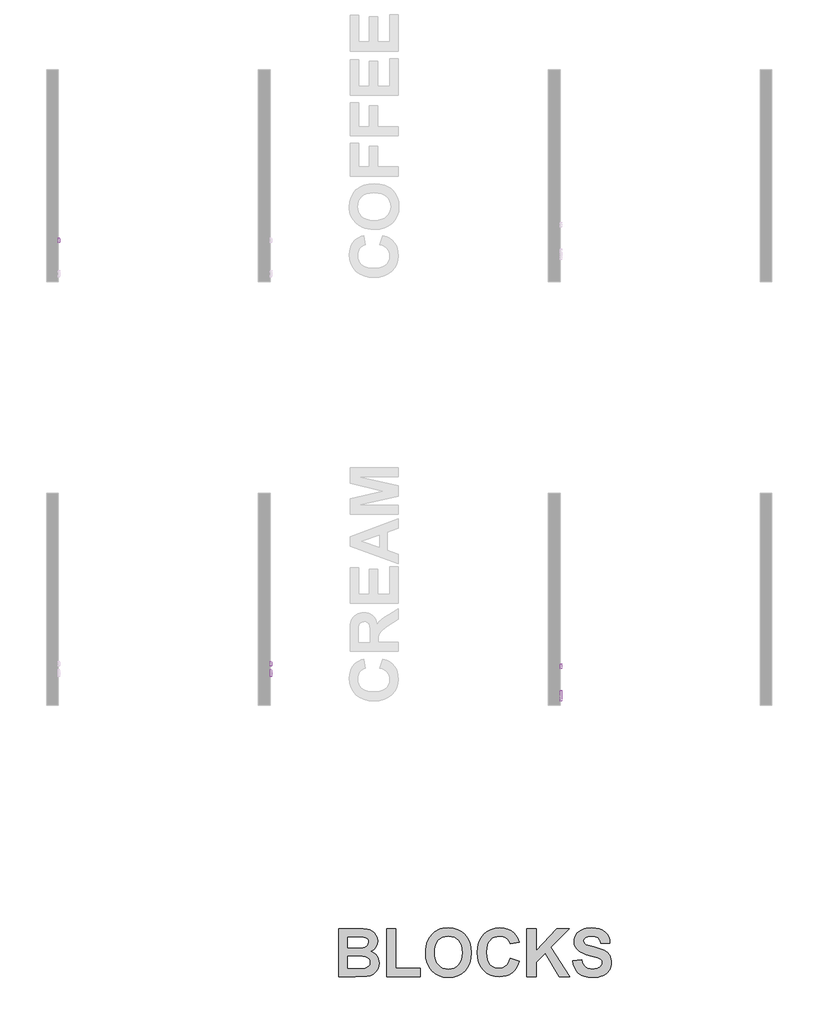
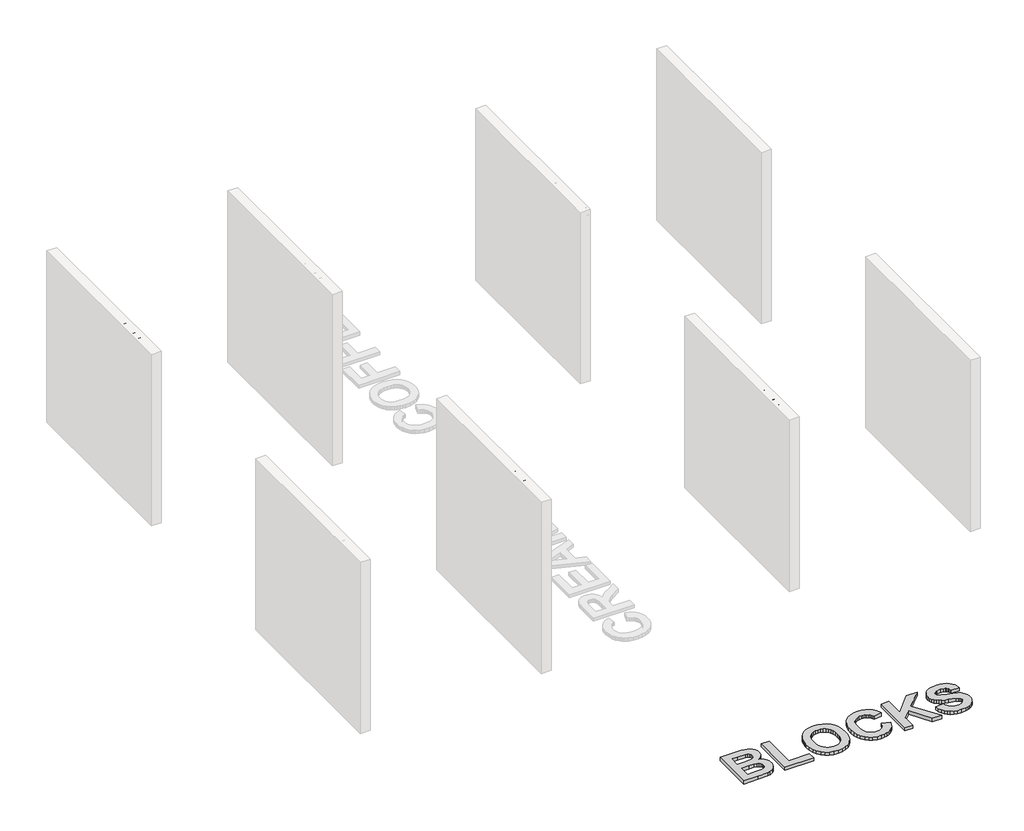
# One storey, part 3 of 8: 6 proxies.
"""IFC4 building model written with IfcOpenShell, lengths in millimetres."""

from ifc_helpers import new_model, si_unit, frame, origin, origin_with_axes, place, context, project, spatial, polyline, outline, extrude, element, save

model = new_model("IFC4")

# Units and contexts
model_context = context("Model", 3, world=origin())
ifc_project = project(units=[si_unit("LENGTHUNIT", "METRE", prefix="MILLI")], contexts=[model_context])

# Site, building, storey
site = spatial("IfcSite", under=ifc_project)
building = spatial("IfcBuilding", under=site)
storey = spatial("IfcBuildingStorey", under=building, Name="PORTOBELLO - SHOWROOM", Elevation=0.0)

# Proxies
placement = place(None, origin())
element("IfcBuildingElementProxy", 1, Name="10mm Arial", ObjectType="10mm Arial", at=placement, inside=storey, context=model_context, shape_type="SweptSolid", body=[
    extrude(outline(polyline([(-9094.2781927, 2584.5399034), (-9081.721154, 2581.3025418), (-9087.5152954, 2566.6700355), (-9096.608112, 2555.9799978), (-9108.5520141, 2549.4408954), (-9122.899412, 2547.2611945), (-9137.4644733, 2548.9105322), (-9149.0312964, 2553.858545), (-9157.8972524, 2561.9335548), (-9164.3597128, 2572.9638833), (-9169.6204253, 2599.8192689), (-9168.133569, 2614.4671037), (-9163.6729998, 2627.116113), (-9156.4717097, 2637.3646922), (-9146.7626907, 2644.8112369), (-9135.2479843, 2649.3453825), (-9122.6296318, 2650.8567644), (-9108.8616482, 2648.9008584), (-9097.4787661, 2643.0331406), (-9088.8366049, 2633.6153615), (-9083.2907838, 2621.0092718), (-9095.8478226, 2618.0171649), (-9106.1485184, 2633.455946), (-9123.1201412, 2638.2997256), (-9142.7650397, 2632.9286485), (-9153.8628132, 2618.5076743), (-9157.0633866, 2599.8437944), (-9153.274202, 2578.2123331), (-9141.4774527, 2564.3922328), (-9124.1502107, 2559.8182333), (-9113.6686396, 2561.3756004), (-9104.9345079, 2566.0477018), (-9098.3402231, 2573.7854864), (-9094.2781927, 2584.5399034)])), frame((17014.625413, 0.0, 0.0), z_axis=(1.0, 0.0, 0.0), x_axis=(0.0, 1.0, 0.0)), (0.0, 0.0, 1.0), 20.0),
    extrude(outline(polyline([(-9066.0248555, 2548.8308244), (-9066.0248555, 2622.6034272), (-9055.0374466, 2622.6034272), (-9055.0374466, 2611.6895946), (-9047.2383483, 2621.7450358), (-9039.3901991, 2624.173057), (-9026.7841094, 2620.2980333), (-9030.9779641, 2609.0408443), (-9039.807132, 2611.6160182), (-9046.9072545, 2609.1389461), (-9051.432203, 2602.2718156), (-9053.4678167, 2587.6055867), (-9053.4678167, 2548.8308244), (-9066.0248555, 2548.8308244)])), frame((17014.625413, 0.0, 0.0), z_axis=(1.0, 0.0, 0.0), x_axis=(0.0, 1.0, 0.0)), (0.0, 0.0, 1.0), 20.0),
    extrude(outline(polyline([(-8967.285328, 2570.8056422), (-8954.9735439, 2569.2360124), (-8959.4095876, 2559.9592547), (-8966.4882503, 2553.0246791), (-8976.0501165, 2548.7020657), (-8987.9357707, 2547.2611945), (-9002.6694446, 2549.7474637), (-9014.0063414, 2557.2062711), (-9021.2352226, 2569.1532389), (-9023.6448497, 2585.1039891), (-9021.2106971, 2601.5912339), (-9013.9082395, 2613.9214121), (-9002.7246269, 2621.6101458), (-8988.6470092, 2624.173057), (-8975.0077842, 2621.6162771), (-8964.1092801, 2613.9459375), (-8956.9631724, 2601.6402848), (-8954.5811364, 2585.1775655), (-8954.6547128, 2581.7930512), (-9011.0878109, 2581.7930512), (-9008.9142414, 2572.3936662), (-9003.8650611, 2565.483616), (-8996.5779319, 2561.234579), (-8987.690516, 2559.8182333), (-8975.3787319, 2562.4424582), (-8967.285328, 2570.8056422)]), holes=[polyline([(-9011.0878109, 2594.3500899), (-8967.1381752, 2594.3500899), (-8972.1658958, 2605.7299063), (-8979.4867475, 2610.1444902), (-8988.6960601, 2611.6160182), (-9004.1593667, 2606.9193914), (-9009.024606, 2601.4287526), (-9011.0878109, 2594.3500899)])]), frame((17014.625413, 0.0, 0.0), z_axis=(1.0, 0.0, 0.0), x_axis=(0.0, 1.0, 0.0)), (0.0, 0.0, 1.0), 20.0),
    extrude(outline(polyline([(-8894.9352023, 2558.2486035), (-8907.1120963, 2549.7382666), (-8920.5643146, 2547.2611945), (-8931.0581485, 2548.7511166), (-8938.7989988, 2553.2208829), (-8943.5722677, 2560.0083057), (-8945.1633574, 2568.4511975), (-8942.7598617, 2578.3840113), (-8936.4445541, 2585.5944984), (-8927.6521744, 2589.7147768), (-8916.7873928, 2591.6032377), (-8895.0087787, 2595.9197198), (-8894.9352023, 2598.7156229), (-8898.393293, 2607.9862492), (-8912.274707, 2611.6160182), (-8924.9788986, 2609.2002598), (-8931.0366887, 2600.6286093), (-8943.5937275, 2602.1982392), (-8938.1613367, 2614.4609723), (-8927.2229787, 2621.646934), (-8910.6560262, 2624.173057), (-8895.4379743, 2621.9412396), (-8886.8417984, 2616.3371705), (-8882.9913002, 2607.8145709), (-8882.3781635, 2596.827162), (-8882.3781635, 2581.20444), (-8881.7405014, 2559.3890376), (-8879.2389038, 2548.8308244), (-8891.7959426, 2548.8308244), (-8894.9352023, 2558.2486035)]), holes=[polyline([(-8894.9352023, 2583.362681), (-8915.1932375, 2579.5121828), (-8925.9967054, 2577.4765691), (-8930.8895359, 2574.1656311), (-8932.6063186, 2569.3341142), (-8928.866185, 2562.5405601), (-8917.8910388, 2559.8182333), (-8905.1868472, 2562.8226029), (-8896.9953415, 2570.0944037), (-8895.0087787, 2579.8064884), (-8894.9352023, 2583.362681)])]), frame((17014.625413, 0.0, 0.0), z_axis=(1.0, 0.0, 0.0), x_axis=(0.0, 1.0, 0.0)), (0.0, 0.0, 1.0), 20.0),
    extrude(outline(polyline([(-8865.1122352, 2548.8308244), (-8865.1122352, 2622.6034272), (-8852.5551964, 2622.6034272), (-8852.5551964, 2610.4633213), (-8843.9222323, 2620.4083979), (-8831.6349736, 2624.173057), (-8819.0534094, 2620.3348215), (-8812.1372279, 2609.5804045), (-8802.3393041, 2620.5248939), (-8789.9662063, 2624.173057), (-8780.5269675, 2622.6555438), (-8773.5464066, 2618.1030041), (-8769.2329902, 2610.3928106), (-8767.7951847, 2599.402336), (-8767.7951847, 2548.8308244), (-8780.3522235, 2548.8308244), (-8780.3522235, 2594.0067334), (-8781.5171832, 2604.4913703), (-8785.7355634, 2609.6539809), (-8792.9092623, 2611.6160182), (-8805.2578346, 2606.5882976), (-8808.9458516, 2600.0461295), (-8810.1751906, 2590.4750662), (-8810.1751906, 2548.8308244), (-8822.7322294, 2548.8308244), (-8822.7322294, 2595.404685), (-8825.6384971, 2607.5693163), (-8835.1666408, 2611.6160182), (-8844.4617925, 2608.9182169), (-8850.6422101, 2601.0210168), (-8852.5551964, 2586.0359568), (-8852.5551964, 2548.8308244), (-8865.1122352, 2548.8308244)])), frame((17014.625413, 0.0, 0.0), z_axis=(1.0, 0.0, 0.0), x_axis=(0.0, 1.0, 0.0)), (0.0, 0.0, 1.0), 20.0),
])
element("IfcBuildingElementProxy", 2, Name="10mm Arial", ObjectType="10mm Arial", at=placement, inside=storey, context=model_context, shape_type="SweptSolid", body=[
    extrude(outline(polyline([(-9146.934369, 2548.8308244), (-9174.3293149, 2649.2871345), (-9161.3798687, 2649.2871345), (-9145.4873665, 2583.2645791), (-9140.5822732, 2562.8839166), (-9135.3338234, 2580.9101344), (-9115.4191447, 2649.2871345), (-9096.7552648, 2649.2871345), (-9082.2852397, 2599.7211671), (-9071.51856, 2562.8839166), (-9066.7606195, 2582.6759679), (-9050.7209645, 2649.2871345), (-9037.7715183, 2649.2871345), (-9065.1909897, 2548.8308244), (-9078.6064197, 2548.8308244), (-9102.6904277, 2626.331298), (-9106.0504166, 2637.1470287), (-9109.8273384, 2624.1240061), (-9131.7776308, 2548.8308244), (-9146.934369, 2548.8308244)])), frame((20714.625413, 0.0, 0.0), z_axis=(1.0, 0.0, 0.0), x_axis=(0.0, 1.0, 0.0)), (0.0, 0.0, 1.0), 20.0),
    extrude(outline(polyline([(-9026.7841094, 2548.8308244), (-9026.7841094, 2649.2871345), (-9014.2270706, 2649.2871345), (-9014.2270706, 2612.3517822), (-9004.4352781, 2621.2177383), (-8992.3748801, 2624.173057), (-8978.2727369, 2620.9479582), (-8969.7133492, 2612.0329512), (-8967.1381752, 2595.5273123), (-8967.1381752, 2548.8308244), (-8979.695214, 2548.8308244), (-8979.695214, 2594.2274626), (-8983.692865, 2607.4712144), (-8995.0236304, 2611.6160182), (-9005.3120636, 2608.8201151), (-9012.1791941, 2601.241746), (-9014.2270706, 2588.0225196), (-9014.2270706, 2548.8308244), (-9026.7841094, 2548.8308244)])), frame((20714.625413, 0.0, 0.0), z_axis=(1.0, 0.0, 0.0), x_axis=(0.0, 1.0, 0.0)), (0.0, 0.0, 1.0), 20.0),
    extrude(outline(polyline([(20734.625413, -8937.3152081), (20734.625413, -8949.8722469), (20714.625413, -8949.8722469), (20714.625413, -8937.3152081), (20734.625413, -8937.3152081)])), frame((0.0, 0.0, 2548.8308244), z_axis=(0.0, 0.0, 1.0), x_axis=(1.0, 0.0, 0.0)), (0.0, 0.0, 1.0), 73.7726028),
    extrude(outline(polyline([(20734.625413, -8937.3152081), (20734.625413, -8949.8722469), (20714.625413, -8949.8722469), (20714.625413, -8937.3152081), (20734.625413, -8937.3152081)])), frame((0.0, 0.0, 2636.7300958), z_axis=(0.0, 0.0, 1.0), x_axis=(1.0, 0.0, 0.0)), (0.0, 0.0, 1.0), 12.5570388),
    extrude(outline(polyline([(-8891.7959426, 2559.3031985), (-8890.2263127, 2548.4629424), (-8899.6195664, 2547.2611945), (-8910.1409914, 2549.3458592), (-8915.3894412, 2554.8150382), (-8916.9100201, 2569.0643341), (-8916.9100201, 2610.0463884), (-8926.3277992, 2610.0463884), (-8926.3277992, 2622.6034272), (-8916.9100201, 2622.6034272), (-8916.9100201, 2640.531543), (-8904.3529814, 2647.9137084), (-8904.3529814, 2622.6034272), (-8891.7959426, 2622.6034272), (-8891.7959426, 2610.0463884), (-8904.3529814, 2610.0463884), (-8904.3529814, 2569.4322161), (-8903.6907938, 2562.957493), (-8901.5448155, 2560.6643619), (-8897.2651216, 2559.8182333), (-8891.7959426, 2559.3031985)])), frame((20714.625413, 0.0, 0.0), z_axis=(1.0, 0.0, 0.0), x_axis=(0.0, 1.0, 0.0)), (0.0, 0.0, 1.0), 20.0),
    extrude(outline(polyline([(-8827.5882717, 2570.8056422), (-8815.2764876, 2569.2360124), (-8819.7125313, 2559.9592547), (-8826.791194, 2553.0246791), (-8836.3530602, 2548.7020657), (-8848.2387144, 2547.2611945), (-8862.9723883, 2549.7474637), (-8874.3092851, 2557.2062711), (-8881.5381663, 2569.1532389), (-8883.9477934, 2585.1039891), (-8881.5136408, 2601.5912339), (-8874.2111832, 2613.9214121), (-8863.0275706, 2621.6101458), (-8848.9499529, 2624.173057), (-8835.3107279, 2621.6162771), (-8824.4122238, 2613.9459375), (-8817.2661161, 2601.6402848), (-8814.8840801, 2585.1775655), (-8814.9576565, 2581.7930512), (-8871.3907546, 2581.7930512), (-8869.2171851, 2572.3936662), (-8864.1680048, 2565.483616), (-8856.8808756, 2561.234579), (-8847.9934597, 2559.8182333), (-8835.6816756, 2562.4424582), (-8827.5882717, 2570.8056422)]), holes=[polyline([(-8871.3907546, 2594.3500899), (-8827.4411189, 2594.3500899), (-8832.4688395, 2605.7299063), (-8839.7896912, 2610.1444902), (-8848.9990038, 2611.6160182), (-8864.4623103, 2606.9193914), (-8869.3275497, 2601.4287526), (-8871.3907546, 2594.3500899)])]), frame((20714.625413, 0.0, 0.0), z_axis=(1.0, 0.0, 0.0), x_axis=(0.0, 1.0, 0.0)), (0.0, 0.0, 1.0), 20.0),
])
element("IfcBuildingElementProxy", 3, Name="10mm Arial Narrow", ObjectType="10mm Arial Narrow", at=placement, inside=storey, context=model_context, shape_type="SweptSolid", body=[
    extrude(outline(polyline([(-3330.3882863, 2548.8308244), (-3330.3882863, 2649.5494281), (-3299.0914016, 2649.5494281), (-3282.7957001, 2647.6711074), (-3271.322714, 2638.1906642), (-3267.0330356, 2621.1715554), (-3268.819344, 2609.0957299), (-3274.1782692, 2599.4693361), (-3283.922058, 2593.1680777), (-3298.8629572, 2591.0676582), (-3320.6413247, 2591.0676582), (-3320.6413247, 2548.8308244), (-3330.3882863, 2548.8308244)]), holes=[polyline([(-3320.6413247, 2602.4391135), (-3297.6699697, 2602.4391135), (-3281.8057743, 2606.9699277), (-3276.7799972, 2620.6385184), (-3279.2548117, 2630.8042949), (-3285.2324405, 2636.6042447), (-3297.8984142, 2638.1779729), (-3320.6413247, 2638.1779729), (-3320.6413247, 2602.4391135)])]), frame((14314.625413, 0.0, 0.0), z_axis=(1.0, 0.0, 0.0), x_axis=(0.0, 1.0, 0.0)), (0.0, 0.0, 1.0), 20.0),
    extrude(outline(polyline([(-3258.9105675, 2585.3819306), (-3256.9560987, 2601.9727061), (-3251.092692, 2613.9247909), (-3242.2341253, 2621.1493455), (-3231.2941762, 2623.5575304), (-3220.4811406, 2621.1493455), (-3211.5971912, 2613.9247909), (-3205.6576364, 2602.1630765), (-3203.6777848, 2586.143412), (-3205.6227352, 2568.9815254), (-3211.4575863, 2556.8390702), (-3220.3066345, 2549.6145156), (-3231.2941762, 2547.2063308), (-3242.1548044, 2549.6208613), (-3251.0292353, 2556.8644529), (-3256.9402345, 2568.8228834), (-3258.9105675, 2585.3819306)]), holes=[polyline([(-3249.1636059, 2585.4073133), (-3247.859569, 2572.8555619), (-3243.9474584, 2563.9843038), (-3238.1062617, 2558.7110453), (-3231.0149663, 2556.9532924), (-3224.2948932, 2558.7269095), (-3218.6028199, 2564.0477606), (-3214.7192648, 2572.9348829), (-3213.4247465, 2585.4073133), (-3214.7287834, 2597.9209906), (-3218.6408939, 2606.7795573), (-3224.4820907, 2612.0528159), (-3231.573386, 2613.8105687), (-3238.3410518, 2612.0432974), (-3244.0236066, 2606.7414833), (-3247.8786061, 2597.873398), (-3249.1636059, 2585.4073133)])]), frame((14314.625413, 0.0, 0.0), z_axis=(1.0, 0.0, 0.0), x_axis=(0.0, 1.0, 0.0)), (0.0, 0.0, 1.0), 20.0),
    extrude(outline(polyline([(-3132.200066, 2556.9532924), (-3130.5755724, 2547.2063308), (-3137.9365591, 2547.2063308), (-3146.2113234, 2549.3257873), (-3150.5263846, 2555.1257371), (-3151.6939893, 2569.7715623), (-3151.6939893, 2612.1860751), (-3159.8164574, 2612.1860751), (-3159.8164574, 2615.4350624), (-3161.440951, 2610.5615815), (-3169.0049994, 2612.1860751), (-3175.084159, 2609.8635569), (-3178.9550227, 2603.3782738), (-3180.9348743, 2587.9709673), (-3180.9348743, 2548.8308244), (-3190.681836, 2548.8308244), (-3190.681836, 2621.9330368), (-3180.9348743, 2621.9330368), (-3180.9348743, 2612.2368406), (-3174.690727, 2621.3238517), (-3168.2942834, 2623.5575304), (-3159.8164574, 2621.9330368), (-3151.6939893, 2621.9330368), (-3151.6939893, 2638.1779729), (-3141.9470277, 2646.3004409), (-3141.9470277, 2621.9330368), (-3132.200066, 2621.9330368), (-3132.200066, 2612.1860751), (-3141.9470277, 2612.1860751), (-3141.9470277, 2567.5378836), (-3141.0840155, 2559.5423291), (-3136.4643618, 2556.9532924), (-3132.200066, 2556.9532924)])), frame((14314.625413, 0.0, 0.0), z_axis=(1.0, 0.0, 0.0), x_axis=(0.0, 1.0, 0.0)), (0.0, 0.0, 1.0), 20.0),
    extrude(outline(polyline([(-3125.7020916, 2585.3819306), (-3123.7476227, 2601.9727061), (-3117.8842161, 2613.9247909), (-3109.0256494, 2621.1493455), (-3098.0857003, 2623.5575304), (-3087.2726647, 2621.1493455), (-3078.3887152, 2613.9247909), (-3072.4491605, 2602.1630765), (-3070.4693089, 2586.143412), (-3072.4142593, 2568.9815254), (-3078.2491103, 2556.8390702), (-3087.0981585, 2549.6145156), (-3098.0857003, 2547.2063308), (-3108.9463284, 2549.6208613), (-3117.8207593, 2556.8644529), (-3123.7317585, 2568.8228834), (-3125.7020916, 2585.3819306)]), holes=[polyline([(-3115.95513, 2585.4073133), (-3114.6510931, 2572.8555619), (-3110.7389825, 2563.9843038), (-3104.8977858, 2558.7110453), (-3097.8064904, 2556.9532924), (-3091.0864172, 2558.7269095), (-3085.3943439, 2564.0477606), (-3081.5107889, 2572.9348829), (-3080.2162706, 2585.4073133), (-3081.5203074, 2597.9209906), (-3085.432418, 2606.7795573), (-3091.2736148, 2612.0528159), (-3098.3649101, 2613.8105687), (-3105.1325759, 2612.0432974), (-3110.8151306, 2606.7414833), (-3114.6701301, 2597.873398), (-3115.95513, 2585.4073133)])]), frame((14314.625413, 0.0, 0.0), z_axis=(1.0, 0.0, 0.0), x_axis=(0.0, 1.0, 0.0)), (0.0, 0.0, 1.0), 20.0),
    extrude(outline(polyline([(-3047.7263984, 2548.8308244), (-3057.47336, 2548.8308244), (-3057.47336, 2649.5494281), (-3047.7263984, 2649.5494281), (-3047.7263984, 2614.140544), (-3040.3273376, 2621.2223208), (-3031.1261043, 2623.5575304), (-3018.2443776, 2619.3566915), (-3008.9669962, 2606.6272611), (-3005.4895645, 2585.9403503), (-3007.4218235, 2569.4860068), (-3013.2186005, 2557.2832677), (-3021.5917229, 2549.725565), (-3031.2530179, 2547.2063308), (-3040.5938561, 2549.8207502), (-3047.7263984, 2557.5878602), (-3047.7263984, 2548.8308244)]), holes=[polyline([(-3047.7263984, 2585.9403503), (-3045.6450159, 2568.692797), (-3039.7562266, 2559.9611439), (-3031.3037833, 2556.9532924), (-3025.3610557, 2558.7427737), (-3020.1226984, 2564.1112174), (-3015.2365262, 2585.5342269), (-3019.9450194, 2606.9699277), (-3025.1897224, 2612.1004085), (-3031.506845, 2613.8105687), (-3037.4844738, 2612.0210875), (-3042.7767694, 2606.6526438), (-3047.7263984, 2585.9403503)])]), frame((14314.625413, 0.0, 0.0), z_axis=(1.0, 0.0, 0.0), x_axis=(0.0, 1.0, 0.0)), (0.0, 0.0, 1.0), 20.0),
    extrude(outline(polyline([(-2953.5057691, 2571.5737349), (-2943.7588074, 2569.9492413), (-2947.4583378, 2560.0626747), (-2953.2773246, 2552.9428238), (-2960.9809779, 2548.640454), (-2970.3345075, 2547.2063308), (-2981.9280615, 2549.6208613), (-2991.0721838, 2556.8644529), (-2997.0117385, 2568.6705872), (-2998.9915901, 2584.7727455), (-2997.00222, 2601.4396692), (-2991.0341097, 2613.6201984), (-2982.0200739, 2621.0731974), (-2970.8929272, 2623.5575304), (-2960.209978, 2621.1588641), (-2951.4624607, 2613.962865), (-2945.6276096, 2602.2233604), (-2943.6826593, 2586.1941774), (-2943.7588074, 2582.9451902), (-2989.2446285, 2582.9451902), (-2983.2416169, 2563.5020323), (-2977.3115807, 2558.5904774), (-2970.207594, 2556.9532924), (-2960.0291262, 2560.608403), (-2953.5057691, 2571.5737349)]), holes=[polyline([(-2988.5846779, 2592.6921518), (-2953.5057691, 2592.6921518), (-2957.7700648, 2606.9572363), (-2963.5953973, 2612.0972356), (-2970.8167791, 2613.8105687), (-2983.0258639, 2608.0994584), (-2988.5846779, 2592.6921518)])]), frame((14314.625413, 0.0, 0.0), z_axis=(1.0, 0.0, 0.0), x_axis=(0.0, 1.0, 0.0)), (0.0, 0.0, 1.0), 20.0),
    extrude(outline(polyline([(14334.625413, -2921.0158969), (14334.625413, -2930.7628585), (14314.625413, -2930.7628585), (14314.625413, -2921.0158969), (14334.625413, -2921.0158969)])), frame((0.0, 0.0, 2548.8308244), z_axis=(0.0, 0.0, 1.0), x_axis=(1.0, 0.0, 0.0)), (0.0, 0.0, 1.0), 100.7186038),
    extrude(outline(polyline([(14334.625413, -2895.0239991), (14334.625413, -2904.7709608), (14314.625413, -2904.7709608), (14314.625413, -2895.0239991), (14334.625413, -2895.0239991)])), frame((0.0, 0.0, 2548.8308244), z_axis=(0.0, 0.0, 1.0), x_axis=(1.0, 0.0, 0.0)), (0.0, 0.0, 1.0), 100.7186038),
    extrude(outline(polyline([(-2883.6525439, 2585.3819306), (-2881.698075, 2601.9727061), (-2875.8346684, 2613.9247909), (-2866.9761017, 2621.1493455), (-2856.0361525, 2623.5575304), (-2845.2231169, 2621.1493455), (-2836.3391675, 2613.9247909), (-2830.3996128, 2602.1630765), (-2828.4197612, 2586.143412), (-2830.3647115, 2568.9815254), (-2836.1995626, 2556.8390702), (-2845.0486108, 2549.6145156), (-2856.0361525, 2547.2063308), (-2866.8967807, 2549.6208613), (-2875.7712116, 2556.8644529), (-2881.6822108, 2568.8228834), (-2883.6525439, 2585.3819306)]), holes=[polyline([(-2873.9055822, 2585.4073133), (-2872.6015454, 2572.8555619), (-2868.6894348, 2563.9843038), (-2862.848238, 2558.7110453), (-2855.7569427, 2556.9532924), (-2849.0368695, 2558.7269095), (-2843.3447962, 2564.0477606), (-2839.4612412, 2572.9348829), (-2838.1667228, 2585.4073133), (-2839.4707597, 2597.9209906), (-2843.3828703, 2606.7795573), (-2849.224067, 2612.0528159), (-2856.3153624, 2613.8105687), (-2863.0830281, 2612.0432974), (-2868.7655829, 2606.7414833), (-2872.6205824, 2597.873398), (-2873.9055822, 2585.4073133)])]), frame((14314.625413, 0.0, 0.0), z_axis=(1.0, 0.0, 0.0), x_axis=(0.0, 1.0, 0.0)), (0.0, 0.0, 1.0), 20.0),
])
element("IfcBuildingElementProxy", 4, Name="10mm Arial Narrow", ObjectType="10mm Arial Narrow", at=placement, inside=storey, context=model_context, shape_type="SweptSolid", body=[
    extrude(outline(polyline([(-8730.3882863, 2548.8308244), (-8730.3882863, 2649.5494281), (-8699.0914016, 2649.5494281), (-8682.7957001, 2647.6711074), (-8671.322714, 2638.1906642), (-8667.0330356, 2621.1715554), (-8668.819344, 2609.0957299), (-8674.1782692, 2599.4693361), (-8683.922058, 2593.1680777), (-8698.8629572, 2591.0676582), (-8720.6413247, 2591.0676582), (-8720.6413247, 2548.8308244), (-8730.3882863, 2548.8308244)]), holes=[polyline([(-8720.6413247, 2602.4391135), (-8697.6699697, 2602.4391135), (-8681.8057743, 2606.9699277), (-8676.7799972, 2620.6385184), (-8679.2548117, 2630.8042949), (-8685.2324405, 2636.6042447), (-8697.8984142, 2638.1779729), (-8720.6413247, 2638.1779729), (-8720.6413247, 2602.4391135)])]), frame((17014.625413, 0.0, 0.0), z_axis=(1.0, 0.0, 0.0), x_axis=(0.0, 1.0, 0.0)), (0.0, 0.0, 1.0), 20.0),
    extrude(outline(polyline([(-8658.9105675, 2585.3819306), (-8656.9560987, 2601.9727061), (-8651.092692, 2613.9247909), (-8642.2341253, 2621.1493455), (-8631.2941762, 2623.5575304), (-8620.4811406, 2621.1493455), (-8611.5971912, 2613.9247909), (-8605.6576364, 2602.1630765), (-8603.6777848, 2586.143412), (-8605.6227352, 2568.9815254), (-8611.4575863, 2556.8390702), (-8620.3066345, 2549.6145156), (-8631.2941762, 2547.2063308), (-8642.1548044, 2549.6208613), (-8651.0292353, 2556.8644529), (-8656.9402345, 2568.8228834), (-8658.9105675, 2585.3819306)]), holes=[polyline([(-8649.1636059, 2585.4073133), (-8647.859569, 2572.8555619), (-8643.9474584, 2563.9843038), (-8638.1062617, 2558.7110453), (-8631.0149663, 2556.9532924), (-8624.2948932, 2558.7269095), (-8618.6028199, 2564.0477606), (-8614.7192648, 2572.9348829), (-8613.4247465, 2585.4073133), (-8614.7287833, 2597.9209906), (-8618.6408939, 2606.7795573), (-8624.4820907, 2612.0528159), (-8631.573386, 2613.8105687), (-8638.3410518, 2612.0432974), (-8644.0236066, 2606.7414833), (-8647.8786061, 2597.873398), (-8649.1636059, 2585.4073133)])]), frame((17014.625413, 0.0, 0.0), z_axis=(1.0, 0.0, 0.0), x_axis=(0.0, 1.0, 0.0)), (0.0, 0.0, 1.0), 20.0),
    extrude(outline(polyline([(-8532.200066, 2556.9532924), (-8530.5755724, 2547.2063308), (-8537.9365591, 2547.2063308), (-8546.2113234, 2549.3257873), (-8550.5263846, 2555.1257371), (-8551.6939893, 2569.7715623), (-8551.6939893, 2612.1860751), (-8559.8164574, 2612.1860751), (-8559.8164574, 2615.4350624), (-8561.440951, 2610.5615815), (-8569.0049994, 2612.1860751), (-8575.084159, 2609.8635569), (-8578.9550227, 2603.3782738), (-8580.9348743, 2587.9709673), (-8580.9348743, 2548.8308244), (-8590.681836, 2548.8308244), (-8590.681836, 2621.9330368), (-8580.9348743, 2621.9330368), (-8580.9348743, 2612.2368406), (-8574.690727, 2621.3238517), (-8568.2942834, 2623.5575304), (-8559.8164574, 2621.9330368), (-8551.6939893, 2621.9330368), (-8551.6939893, 2638.1779729), (-8541.9470277, 2646.3004409), (-8541.9470277, 2621.9330368), (-8532.200066, 2621.9330368), (-8532.200066, 2612.1860751), (-8541.9470277, 2612.1860751), (-8541.9470277, 2567.5378836), (-8541.0840155, 2559.5423291), (-8536.4643618, 2556.9532924), (-8532.200066, 2556.9532924)])), frame((17014.625413, 0.0, 0.0), z_axis=(1.0, 0.0, 0.0), x_axis=(0.0, 1.0, 0.0)), (0.0, 0.0, 1.0), 20.0),
    extrude(outline(polyline([(-8525.7020916, 2585.3819306), (-8523.7476227, 2601.9727061), (-8517.8842161, 2613.9247909), (-8509.0256494, 2621.1493455), (-8498.0857003, 2623.5575304), (-8487.2726647, 2621.1493455), (-8478.3887152, 2613.9247909), (-8472.4491605, 2602.1630765), (-8470.4693089, 2586.143412), (-8472.4142593, 2568.9815254), (-8478.2491103, 2556.8390702), (-8487.0981585, 2549.6145156), (-8498.0857003, 2547.2063308), (-8508.9463284, 2549.6208613), (-8517.8207593, 2556.8644529), (-8523.7317585, 2568.8228834), (-8525.7020916, 2585.3819306)]), holes=[polyline([(-8515.95513, 2585.4073133), (-8514.6510931, 2572.8555619), (-8510.7389825, 2563.9843038), (-8504.8977858, 2558.7110453), (-8497.8064904, 2556.9532924), (-8491.0864172, 2558.7269095), (-8485.3943439, 2564.0477606), (-8481.5107889, 2572.9348829), (-8480.2162706, 2585.4073133), (-8481.5203074, 2597.9209906), (-8485.432418, 2606.7795573), (-8491.2736148, 2612.0528159), (-8498.3649101, 2613.8105687), (-8505.1325759, 2612.0432974), (-8510.8151306, 2606.7414833), (-8514.6701301, 2597.873398), (-8515.95513, 2585.4073133)])]), frame((17014.625413, 0.0, 0.0), z_axis=(1.0, 0.0, 0.0), x_axis=(0.0, 1.0, 0.0)), (0.0, 0.0, 1.0), 20.0),
    extrude(outline(polyline([(-8447.7263984, 2548.8308244), (-8457.47336, 2548.8308244), (-8457.47336, 2649.5494281), (-8447.7263984, 2649.5494281), (-8447.7263984, 2614.140544), (-8440.3273376, 2621.2223208), (-8431.1261043, 2623.5575304), (-8418.2443776, 2619.3566915), (-8408.9669962, 2606.6272611), (-8405.4895645, 2585.9403503), (-8407.4218235, 2569.4860068), (-8413.2186005, 2557.2832677), (-8421.5917229, 2549.725565), (-8431.2530179, 2547.2063308), (-8440.5938561, 2549.8207502), (-8447.7263984, 2557.5878602), (-8447.7263984, 2548.8308244)]), holes=[polyline([(-8447.7263984, 2585.9403503), (-8445.6450159, 2568.692797), (-8439.7562266, 2559.9611439), (-8431.3037833, 2556.9532924), (-8425.3610557, 2558.7427737), (-8420.1226984, 2564.1112174), (-8415.2365262, 2585.5342269), (-8419.9450194, 2606.9699277), (-8425.1897224, 2612.1004085), (-8431.506845, 2613.8105687), (-8437.4844738, 2612.0210875), (-8442.7767694, 2606.6526438), (-8447.7263984, 2585.9403503)])]), frame((17014.625413, 0.0, 0.0), z_axis=(1.0, 0.0, 0.0), x_axis=(0.0, 1.0, 0.0)), (0.0, 0.0, 1.0), 20.0),
    extrude(outline(polyline([(-8353.5057691, 2571.5737349), (-8343.7588074, 2569.9492413), (-8347.4583378, 2560.0626747), (-8353.2773246, 2552.9428238), (-8360.9809779, 2548.640454), (-8370.3345075, 2547.2063308), (-8381.9280615, 2549.6208613), (-8391.0721838, 2556.8644529), (-8397.0117385, 2568.6705872), (-8398.9915901, 2584.7727455), (-8397.00222, 2601.4396692), (-8391.0341097, 2613.6201984), (-8382.0200739, 2621.0731974), (-8370.8929272, 2623.5575304), (-8360.209978, 2621.1588641), (-8351.4624607, 2613.962865), (-8345.6276096, 2602.2233604), (-8343.6826593, 2586.1941774), (-8343.7588074, 2582.9451902), (-8389.2446285, 2582.9451902), (-8383.2416169, 2563.5020323), (-8377.3115807, 2558.5904774), (-8370.207594, 2556.9532924), (-8360.0291262, 2560.608403), (-8353.5057691, 2571.5737349)]), holes=[polyline([(-8388.5846779, 2592.6921518), (-8353.5057691, 2592.6921518), (-8357.7700648, 2606.9572363), (-8363.5953973, 2612.0972356), (-8370.8167791, 2613.8105687), (-8383.0258639, 2608.0994584), (-8388.5846779, 2592.6921518)])]), frame((17014.625413, 0.0, 0.0), z_axis=(1.0, 0.0, 0.0), x_axis=(0.0, 1.0, 0.0)), (0.0, 0.0, 1.0), 20.0),
    extrude(outline(polyline([(17034.625413, -8321.0158969), (17034.625413, -8330.7628585), (17014.625413, -8330.7628585), (17014.625413, -8321.0158969), (17034.625413, -8321.0158969)])), frame((0.0, 0.0, 2548.8308244), z_axis=(0.0, 0.0, 1.0), x_axis=(1.0, 0.0, 0.0)), (0.0, 0.0, 1.0), 100.7186038),
    extrude(outline(polyline([(17034.625413, -8295.0239991), (17034.625413, -8304.7709608), (17014.625413, -8304.7709608), (17014.625413, -8295.0239991), (17034.625413, -8295.0239991)])), frame((0.0, 0.0, 2548.8308244), z_axis=(0.0, 0.0, 1.0), x_axis=(1.0, 0.0, 0.0)), (0.0, 0.0, 1.0), 100.7186038),
    extrude(outline(polyline([(-8283.6525439, 2585.3819306), (-8281.698075, 2601.9727061), (-8275.8346684, 2613.9247909), (-8266.9761017, 2621.1493455), (-8256.0361525, 2623.5575304), (-8245.2231169, 2621.1493455), (-8236.3391675, 2613.9247909), (-8230.3996128, 2602.1630765), (-8228.4197612, 2586.143412), (-8230.3647115, 2568.9815254), (-8236.1995626, 2556.8390702), (-8245.0486108, 2549.6145156), (-8256.0361525, 2547.2063308), (-8266.8967807, 2549.6208613), (-8275.7712116, 2556.8644529), (-8281.6822108, 2568.8228834), (-8283.6525439, 2585.3819306)]), holes=[polyline([(-8273.9055822, 2585.4073133), (-8272.6015454, 2572.8555619), (-8268.6894348, 2563.9843038), (-8262.848238, 2558.7110453), (-8255.7569427, 2556.9532924), (-8249.0368695, 2558.7269095), (-8243.3447962, 2564.0477606), (-8239.4612412, 2572.9348829), (-8238.1667228, 2585.4073133), (-8239.4707597, 2597.9209906), (-8243.3828703, 2606.7795573), (-8249.224067, 2612.0528159), (-8256.3153624, 2613.8105687), (-8263.0830281, 2612.0432974), (-8268.7655829, 2606.7414833), (-8272.6205824, 2597.873398), (-8273.9055822, 2585.4073133)])]), frame((17014.625413, 0.0, 0.0), z_axis=(1.0, 0.0, 0.0), x_axis=(0.0, 1.0, 0.0)), (0.0, 0.0, 1.0), 20.0),
])
element("IfcBuildingElementProxy", 5, Name="10mm Arial Narrow", ObjectType="10mm Arial Narrow", at=placement, inside=storey, context=model_context, shape_type="SweptSolid", body=[
    extrude(outline(polyline([(-8760.3882863, 2548.8308244), (-8760.3882863, 2649.5494281), (-8729.0914016, 2649.5494281), (-8712.7957001, 2647.6711074), (-8701.322714, 2638.1906642), (-8697.0330356, 2621.1715554), (-8698.819344, 2609.0957299), (-8704.1782692, 2599.4693361), (-8713.922058, 2593.1680777), (-8728.8629572, 2591.0676582), (-8750.6413247, 2591.0676582), (-8750.6413247, 2548.8308244), (-8760.3882863, 2548.8308244)]), holes=[polyline([(-8750.6413247, 2602.4391135), (-8727.6699697, 2602.4391135), (-8711.8057743, 2606.9699277), (-8706.7799972, 2620.6385184), (-8709.2548117, 2630.8042949), (-8715.2324405, 2636.6042447), (-8727.8984142, 2638.1779729), (-8750.6413247, 2638.1779729), (-8750.6413247, 2602.4391135)])]), frame((20714.625413, 0.0, 0.0), z_axis=(1.0, 0.0, 0.0), x_axis=(0.0, 1.0, 0.0)), (0.0, 0.0, 1.0), 20.0),
    extrude(outline(polyline([(-8688.9105675, 2585.3819306), (-8686.9560987, 2601.9727061), (-8681.092692, 2613.9247909), (-8672.2341253, 2621.1493455), (-8661.2941762, 2623.5575304), (-8650.4811406, 2621.1493455), (-8641.5971912, 2613.9247909), (-8635.6576364, 2602.1630765), (-8633.6777848, 2586.143412), (-8635.6227352, 2568.9815254), (-8641.4575863, 2556.8390702), (-8650.3066345, 2549.6145156), (-8661.2941762, 2547.2063308), (-8672.1548044, 2549.6208613), (-8681.0292353, 2556.8644529), (-8686.9402345, 2568.8228834), (-8688.9105675, 2585.3819306)]), holes=[polyline([(-8679.1636059, 2585.4073133), (-8677.859569, 2572.8555619), (-8673.9474584, 2563.9843038), (-8668.1062617, 2558.7110453), (-8661.0149663, 2556.9532924), (-8654.2948932, 2558.7269095), (-8648.6028199, 2564.0477606), (-8644.7192648, 2572.9348829), (-8643.4247465, 2585.4073133), (-8644.7287834, 2597.9209906), (-8648.6408939, 2606.7795573), (-8654.4820907, 2612.0528159), (-8661.573386, 2613.8105687), (-8668.3410518, 2612.0432974), (-8674.0236066, 2606.7414833), (-8677.8786061, 2597.873398), (-8679.1636059, 2585.4073133)])]), frame((20714.625413, 0.0, 0.0), z_axis=(1.0, 0.0, 0.0), x_axis=(0.0, 1.0, 0.0)), (0.0, 0.0, 1.0), 20.0),
    extrude(outline(polyline([(-8562.200066, 2556.9532924), (-8560.5755724, 2547.2063308), (-8567.9365591, 2547.2063308), (-8576.2113234, 2549.3257873), (-8580.5263846, 2555.1257371), (-8581.6939893, 2569.7715623), (-8581.6939893, 2612.1860751), (-8589.8164574, 2612.1860751), (-8589.8164574, 2615.4350624), (-8591.440951, 2610.5615815), (-8599.0049994, 2612.1860751), (-8605.084159, 2609.8635569), (-8608.9550227, 2603.3782738), (-8610.9348743, 2587.9709673), (-8610.9348743, 2548.8308244), (-8620.681836, 2548.8308244), (-8620.681836, 2621.9330368), (-8610.9348743, 2621.9330368), (-8610.9348743, 2612.2368406), (-8604.690727, 2621.3238517), (-8598.2942834, 2623.5575304), (-8589.8164574, 2621.9330368), (-8581.6939893, 2621.9330368), (-8581.6939893, 2638.1779729), (-8571.9470277, 2646.3004409), (-8571.9470277, 2621.9330368), (-8562.200066, 2621.9330368), (-8562.200066, 2612.1860751), (-8571.9470277, 2612.1860751), (-8571.9470277, 2567.5378836), (-8571.0840155, 2559.5423291), (-8566.4643618, 2556.9532924), (-8562.200066, 2556.9532924)])), frame((20714.625413, 0.0, 0.0), z_axis=(1.0, 0.0, 0.0), x_axis=(0.0, 1.0, 0.0)), (0.0, 0.0, 1.0), 20.0),
    extrude(outline(polyline([(-8555.7020916, 2585.3819306), (-8553.7476227, 2601.9727061), (-8547.8842161, 2613.9247909), (-8539.0256494, 2621.1493455), (-8528.0857003, 2623.5575304), (-8517.2726647, 2621.1493455), (-8508.3887152, 2613.9247909), (-8502.4491605, 2602.1630765), (-8500.4693089, 2586.143412), (-8502.4142593, 2568.9815254), (-8508.2491103, 2556.8390702), (-8517.0981585, 2549.6145156), (-8528.0857003, 2547.2063308), (-8538.9463284, 2549.6208613), (-8547.8207593, 2556.8644529), (-8553.7317585, 2568.8228834), (-8555.7020916, 2585.3819306)]), holes=[polyline([(-8545.95513, 2585.4073133), (-8544.6510931, 2572.8555619), (-8540.7389825, 2563.9843038), (-8534.8977858, 2558.7110453), (-8527.8064904, 2556.9532924), (-8521.0864172, 2558.7269095), (-8515.3943439, 2564.0477606), (-8511.5107889, 2572.9348829), (-8510.2162706, 2585.4073133), (-8511.5203074, 2597.9209906), (-8515.432418, 2606.7795573), (-8521.2736148, 2612.0528159), (-8528.3649101, 2613.8105687), (-8535.1325759, 2612.0432974), (-8540.8151306, 2606.7414833), (-8544.6701301, 2597.873398), (-8545.95513, 2585.4073133)])]), frame((20714.625413, 0.0, 0.0), z_axis=(1.0, 0.0, 0.0), x_axis=(0.0, 1.0, 0.0)), (0.0, 0.0, 1.0), 20.0),
    extrude(outline(polyline([(-8477.7263984, 2548.8308244), (-8487.47336, 2548.8308244), (-8487.47336, 2649.5494281), (-8477.7263984, 2649.5494281), (-8477.7263984, 2614.140544), (-8470.3273376, 2621.2223208), (-8461.1261043, 2623.5575304), (-8448.2443776, 2619.3566915), (-8438.9669962, 2606.6272611), (-8435.4895645, 2585.9403503), (-8437.4218235, 2569.4860068), (-8443.2186005, 2557.2832677), (-8451.5917229, 2549.725565), (-8461.2530179, 2547.2063308), (-8470.5938561, 2549.8207502), (-8477.7263984, 2557.5878602), (-8477.7263984, 2548.8308244)]), holes=[polyline([(-8477.7263984, 2585.9403503), (-8475.6450159, 2568.692797), (-8469.7562266, 2559.9611439), (-8461.3037833, 2556.9532924), (-8455.3610557, 2558.7427737), (-8450.1226984, 2564.1112174), (-8445.2365262, 2585.5342269), (-8449.9450194, 2606.9699277), (-8455.1897224, 2612.1004085), (-8461.506845, 2613.8105687), (-8467.4844738, 2612.0210875), (-8472.7767694, 2606.6526438), (-8477.7263984, 2585.9403503)])]), frame((20714.625413, 0.0, 0.0), z_axis=(1.0, 0.0, 0.0), x_axis=(0.0, 1.0, 0.0)), (0.0, 0.0, 1.0), 20.0),
    extrude(outline(polyline([(-8383.5057691, 2571.5737349), (-8373.7588074, 2569.9492413), (-8377.4583378, 2560.0626747), (-8383.2773246, 2552.9428238), (-8390.9809779, 2548.640454), (-8400.3345075, 2547.2063308), (-8411.9280615, 2549.6208613), (-8421.0721838, 2556.8644529), (-8427.0117385, 2568.6705872), (-8428.9915901, 2584.7727455), (-8427.00222, 2601.4396692), (-8421.0341097, 2613.6201984), (-8412.0200739, 2621.0731974), (-8400.8929272, 2623.5575304), (-8390.209978, 2621.1588641), (-8381.4624607, 2613.962865), (-8375.6276096, 2602.2233604), (-8373.6826593, 2586.1941774), (-8373.7588074, 2582.9451902), (-8419.2446285, 2582.9451902), (-8413.2416169, 2563.5020323), (-8407.3115807, 2558.5904774), (-8400.207594, 2556.9532924), (-8390.0291262, 2560.608403), (-8383.5057691, 2571.5737349)]), holes=[polyline([(-8418.5846779, 2592.6921518), (-8383.5057691, 2592.6921518), (-8387.7700648, 2606.9572363), (-8393.5953973, 2612.0972356), (-8400.8167791, 2613.8105687), (-8413.0258639, 2608.0994584), (-8418.5846779, 2592.6921518)])]), frame((20714.625413, 0.0, 0.0), z_axis=(1.0, 0.0, 0.0), x_axis=(0.0, 1.0, 0.0)), (0.0, 0.0, 1.0), 20.0),
    extrude(outline(polyline([(20734.625413, -8351.0158969), (20734.625413, -8360.7628585), (20714.625413, -8360.7628585), (20714.625413, -8351.0158969), (20734.625413, -8351.0158969)])), frame((0.0, 0.0, 2548.8308244), z_axis=(0.0, 0.0, 1.0), x_axis=(1.0, 0.0, 0.0)), (0.0, 0.0, 1.0), 100.7186038),
    extrude(outline(polyline([(20734.625413, -8325.0239991), (20734.625413, -8334.7709608), (20714.625413, -8334.7709608), (20714.625413, -8325.0239991), (20734.625413, -8325.0239991)])), frame((0.0, 0.0, 2548.8308244), z_axis=(0.0, 0.0, 1.0), x_axis=(1.0, 0.0, 0.0)), (0.0, 0.0, 1.0), 100.7186038),
    extrude(outline(polyline([(-8313.6525439, 2585.3819306), (-8311.698075, 2601.9727061), (-8305.8346684, 2613.9247909), (-8296.9761017, 2621.1493455), (-8286.0361525, 2623.5575304), (-8275.2231169, 2621.1493455), (-8266.3391675, 2613.9247909), (-8260.3996128, 2602.1630765), (-8258.4197612, 2586.143412), (-8260.3647115, 2568.9815254), (-8266.1995626, 2556.8390702), (-8275.0486108, 2549.6145156), (-8286.0361525, 2547.2063308), (-8296.8967807, 2549.6208613), (-8305.7712116, 2556.8644529), (-8311.6822108, 2568.8228834), (-8313.6525439, 2585.3819306)]), holes=[polyline([(-8303.9055822, 2585.4073133), (-8302.6015454, 2572.8555619), (-8298.6894348, 2563.9843038), (-8292.848238, 2558.7110453), (-8285.7569427, 2556.9532924), (-8279.0368695, 2558.7269095), (-8273.3447962, 2564.0477606), (-8269.4612412, 2572.9348829), (-8268.1667228, 2585.4073133), (-8269.4707597, 2597.9209906), (-8273.3828703, 2606.7795573), (-8279.224067, 2612.0528159), (-8286.3153624, 2613.8105687), (-8293.0830281, 2612.0432974), (-8298.7655829, 2606.7414833), (-8302.6205824, 2597.873398), (-8303.9055822, 2585.4073133)])]), frame((20714.625413, 0.0, 0.0), z_axis=(1.0, 0.0, 0.0), x_axis=(0.0, 1.0, 0.0)), (0.0, 0.0, 1.0), 20.0),
])
element("IfcBuildingElementProxy", 6, Name="600mm Arial", ObjectType="600mm Arial", at=placement, inside=storey, context=model_context, shape_type="SweptSolid", body=[
    extrude(outline(polyline([(17889.1598312, -12076.5446312), (18140.4290733, -12076.5446312), (18205.5047705, -12078.0628744), (18251.6403843, -12082.6176038), (18286.3701965, -12092.0117334), (18317.2284886, -12108.0481767), (18343.7408097, -12130.5940875), (18365.4327088, -12159.5166196), (18379.8939748, -12193.5822004), (18384.7143968, -12231.5572573), (18378.9640509, -12272.9293833), (18361.7130131, -12310.80955), (18334.5933947, -12342.4269637), (18299.2373072, -12365.0108306), (18323.0547467, -12374.5567844), (18343.9495681, -12386.9494442), (18361.9217715, -12402.1888099), (18376.9713568, -12420.2748814), (18388.8610985, -12440.6478068), (18397.3537711, -12462.7477337), (18402.4493747, -12486.5746622), (18404.1479092, -12512.1285923), (18399.2705531, -12553.1401355), (18384.6384847, -12592.9750403), (18361.5611887, -12628.2741936), (18331.34815, -12655.6784826), (18293.6387856, -12674.637544), (18248.0725129, -12684.6010147), (18098.3737379, -12688.7002712), (17889.1598312, -12688.7002712), (17889.1598312, -12076.5446312)]), holes=[polyline([(18005.7609054, -12183.4289493), (18005.7609054, -12319.463536), (18094.7299543, -12319.463536), (18193.4157594, -12317.4898199), (18224.4828099, -12310.3920331), (18248.1484251, -12296.38624), (18263.1220982, -12276.15565), (18268.1133226, -12250.3834724), (18263.8053076, -12225.7309992), (18250.8812628, -12206.1266845), (18229.4930123, -12192.405562), (18199.7923806, -12185.4026654), (18083.7986036, -12183.4289493), (18005.7609054, -12183.4289493)]), polyline([(18005.7609054, -12426.3478541), (18005.7609054, -12581.8159531), (18129.0422496, -12581.8159531), (18220.4404875, -12578.1721695), (18247.4272596, -12570.0305906), (18268.8724441, -12555.0189614), (18282.8782372, -12533.4409306), (18287.5468349, -12505.6001467), (18283.9410075, -12481.4600806), (18273.123525, -12461.2674466), (18255.5119044, -12445.5156739), (18231.5236625, -12434.6981914), (18188.4055569, -12428.4354384), (18113.4043451, -12426.3478541), (18005.7609054, -12426.3478541)])]), origin_with_axes(), (0.0, 0.0, 1.0), 50.0),
    extrude(outline(polyline([(18501.3154711, -12688.7002712), (18501.3154711, -12076.5446312), (18617.9165454, -12076.5446312), (18617.9165454, -12581.8159531), (18928.8527435, -12581.8159531), (18928.8527435, -12688.7002712), (18501.3154711, -12688.7002712)])), origin_with_axes(), (0.0, 0.0, 1.0), 50.0),
    extrude(outline(polyline([(18996.8700368, -12386.4180591), (18998.5875494, -12341.610908), (19003.7400871, -12300.5614087), (19012.3276499, -12263.2695612), (19024.3502379, -12229.7353655), (19048.5851943, -12185.4975556), (19080.2974982, -12146.0042555), (19117.4375213, -12113.6846544), (19157.9556355, -12090.9679412), (19187.1248821, -12080.4066622), (19218.4576252, -12072.8628916), (19251.9538648, -12068.3366292), (19287.6136009, -12066.827875), (19350.7155821, -12072.0610694), (19407.1752494, -12087.7606525), (19456.9926029, -12113.9266244), (19500.1676426, -12150.558985), (19518.8491502, -12172.5130183), (19535.0397901, -12196.509563), (19559.9484668, -12250.6301869), (19574.8936729, -12312.9208569), (19579.8754082, -12383.3815728), (19574.9316289, -12453.3630932), (19560.1002911, -12515.2789468), (19535.3813948, -12569.1291337), (19519.3141121, -12593.0296022), (19500.7749399, -12614.9136539), (19457.8845707, -12651.4463798), (19408.3139317, -12677.541184), (19352.0630229, -12693.1980665), (19289.1318441, -12698.4170274), (19225.536434, -12693.2217891), (19168.8110741, -12677.6360742), (19118.9557645, -12651.6598827), (19075.9705052, -12615.2932147), (19041.3640503, -12569.8170877), (19016.6451539, -12516.5125194), (19001.8138161, -12455.3795099), (18996.8700368, -12386.4180591)]), holes=[polyline([(19113.4711111, -12382.1669783), (19116.569276, -12430.5894459), (19125.8637708, -12472.7681385), (19141.3545955, -12508.7030562), (19163.0417501, -12538.3941989), (19189.5018816, -12561.6422972), (19219.311637, -12578.2480817), (19252.4710164, -12588.2115524), (19288.9800198, -12591.5327093), (19325.4510671, -12588.2352749), (19358.4965782, -12578.3429719), (19388.1165533, -12561.8558001), (19414.3109922, -12538.7737597), (19435.7324542, -12509.0968505), (19451.0334985, -12472.8250726), (19460.2141251, -12429.9584261), (19463.2743339, -12380.4969108), (19460.2947818, -12331.7233494), (19451.3561252, -12289.5541458), (19436.4583642, -12253.9892999), (19415.6014989, -12225.0288117), (19389.8103433, -12202.5777911), (19360.1097116, -12186.5413478), (19326.4996037, -12176.9194818), (19288.9800198, -12173.7121931), (19251.4224797, -12176.9574379), (19217.6985037, -12186.6931721), (19187.8080916, -12202.9193958), (19161.7512434, -12225.636109), (19140.6286855, -12254.8907568), (19125.5411442, -12290.7307843), (19116.4886194, -12333.1561914), (19113.4711111, -12382.1669783)])]), origin_with_axes(), (0.0, 0.0, 1.0), 50.0),
    extrude(outline(polyline([(20075.4299739, -12455.4981226), (20192.0310482, -12494.3651474), (20175.9281817, -12540.4675497), (20155.2516078, -12580.2407758), (20130.0013263, -12613.6848258), (20100.1773373, -12640.7996997), (20065.9029981, -12661.7561997), (20027.3016659, -12676.7251283), (19984.3733407, -12685.7064855), (19937.1180225, -12688.7002712), (19878.7320842, -12683.5856896), (19825.7928432, -12668.2419447), (19778.3002995, -12642.6690365), (19736.2544532, -12606.8669652), (19701.8472677, -12562.1926603), (19677.2707066, -12510.0030519), (19662.52477, -12450.2981398), (19657.6094577, -12383.0779242), (19662.5674705, -12312.1949469), (19677.441509, -12249.700263), (19702.231573, -12195.5938726), (19718.3451146, -12171.6862874), (19736.9376626, -12149.8757756), (19779.728397, -12113.5423191), (19828.7723954, -12087.5898502), (19884.0696578, -12072.0183688), (19945.6201842, -12066.827875), (19999.441904, -12071.1074229), (20047.9497728, -12083.9460666), (20091.1437906, -12105.3438061), (20129.0239573, -12135.3006413), (20148.7326512, -12157.7042169), (20165.8033977, -12184.5296756), (20180.2361967, -12215.7770175), (20192.0310482, -12251.4462426), (20075.4299739, -12270.879755), (20068.0807281, -12249.5247161), (20057.5716388, -12230.5514212), (20043.9027059, -12213.9598702), (20027.0739294, -12199.7500632), (20007.6736286, -12188.3584951), (19986.2901227, -12180.2216606), (19962.9234116, -12175.33956), (19937.5734955, -12173.7121931), (19902.92434, -12176.6680228), (19871.7007206, -12185.5355117), (19843.9026373, -12200.3146599), (19819.5300902, -12221.0054674), (19799.7027835, -12248.3101216), (19785.5404216, -12282.9308101), (19777.0430044, -12324.8675327), (19774.210532, -12374.1202895), (19776.9576032, -12426.2529639), (19785.1988169, -12470.3009934), (19798.9341729, -12506.2643781), (19818.1636714, -12534.143118), (19841.796075, -12554.9999834), (19868.7401464, -12569.8977443), (19898.9958858, -12578.8364009), (19932.5632931, -12581.8159531), (19957.5526265, -12579.9134046), (19980.7485352, -12574.2057593), (20002.1510192, -12564.693017), (20021.7600784, -12551.3751778), (20039.148707, -12533.9675712), (20053.8898992, -12512.1855264), (20065.9836548, -12486.0290436), (20075.4299739, -12455.4981226)])), origin_with_axes(), (0.0, 0.0, 1.0), 50.0),
    extrude(outline(polyline([(20289.1986101, -12688.7002712), (20289.1986101, -12076.5446312), (20405.7996844, -12076.5446312), (20405.7996844, -12355.5977231), (20668.4557501, -12076.5446312), (20828.4785786, -12076.5446312), (20596.7946732, -12310.354077), (20838.1953348, -12688.7002712), (20701.8570995, -12688.7002712), (20521.0343398, -12387.0253564), (20405.7996844, -12503.4746063), (20405.7996844, -12688.7002712), (20289.1986101, -12688.7002712)])), origin_with_axes(), (0.0, 0.0, 1.0), 50.0),
    extrude(outline(polyline([(20872.2039815, -12484.6483912), (20988.8050558, -12474.931635), (20995.8648865, -12503.0001553), (21005.8093791, -12527.0832874), (21018.6385338, -12547.1810311), (21034.3523504, -12563.2933866), (21052.9982742, -12575.6480903), (21074.6237501, -12584.4728786), (21099.2287782, -12589.7677516), (21126.8133585, -12591.5327093), (21155.8023138, -12589.9717655), (21180.9766831, -12585.2889343), (21202.3364665, -12577.4842156), (21219.8816639, -12566.5576094), (21233.5648304, -12553.5434189), (21243.3385207, -12539.4759471), (21249.2027349, -12524.3551942), (21251.1574729, -12508.1811601), (21247.9122282, -12488.3491089), (21238.1764939, -12471.6674122), (21220.3181588, -12457.5667289), (21192.7051115, -12445.4777178), (21091.5901174, -12419.5157599), (21044.6574258, -12406.8479185), (21005.277994, -12392.6808121), (20973.4518219, -12377.0144406), (20949.1789094, -12359.8488039), (20924.0045401, -12333.2700597), (20906.0228478, -12303.9394997), (20895.2338324, -12271.857124), (20891.6374939, -12237.0229327), (20893.2885833, -12214.097461), (20898.2418516, -12191.931111), (20906.4972988, -12170.5238825), (20918.0549248, -12149.8757756), (20932.7249493, -12130.812335), (20950.3175918, -12114.1591054), (20970.8328524, -12099.9160868), (20994.2707311, -12088.0832792), (21020.4509365, -12078.7840399), (21049.1931773, -12072.1417261), (21114.3637647, -12066.827875), (21168.2756302, -12070.1395429), (21215.08022, -12080.0745466), (21254.7775339, -12096.632886), (21287.3675722, -12119.8145611), (21312.9547138, -12148.5188458), (21331.6433382, -12181.6450136), (21343.4334452, -12219.1930646), (21348.3250348, -12261.1629988), (21231.7239605, -12261.1629988), (21226.4528101, -12239.4948223), (21218.8378718, -12221.1003576), (21208.8791456, -12205.9796047), (21196.5766315, -12194.1325635), (21181.4179225, -12185.1986515), (21162.8906115, -12178.8172857), (21115.7301835, -12173.7121931), (21066.0836324, -12179.1399124), (21045.8150862, -12185.9245615), (21028.5830264, -12195.4230702), (21013.3246827, -12211.7441841), (21008.2385682, -12232.7718518), (21012.8692098, -12252.6228811), (21026.7611346, -12269.3615119), (21042.7264103, -12279.0830126), (21067.0894684, -12288.9658266), (21141.008932, -12309.2153947), (21219.900642, -12330.2810184), (21275.1457148, -12352.3335003), (21313.8609152, -12379.0356018), (21343.1630081, -12414.0500845), (21353.9235564, -12434.7835926), (21361.6096624, -12457.8134434), (21366.221326, -12483.1396371), (21367.7585472, -12510.7621735), (21365.9413999, -12536.4584389), (21360.4899581, -12561.3196705), (21351.4042217, -12585.3458684), (21338.6841908, -12608.5370326), (21322.6382584, -12629.8493709), (21303.5748178, -12648.2390911), (21281.4938689, -12663.7061933), (21256.3954118, -12676.2506773), (21228.1513446, -12685.9484555), (21196.6335656, -12692.8754399), (21123.7768722, -12698.4170274), (21069.290921, -12695.0057248), (21021.5231958, -12684.771817), (20980.4736965, -12667.7153041), (20946.1424231, -12643.836186), (20918.2921503, -12613.4191333), (20896.6856524, -12576.7488166), (20881.3229294, -12533.8252359), (20872.2039815, -12484.6483912)])), origin_with_axes(), (0.0, 0.0, 1.0), 50.0),
])

save(model, "model.ifc")
